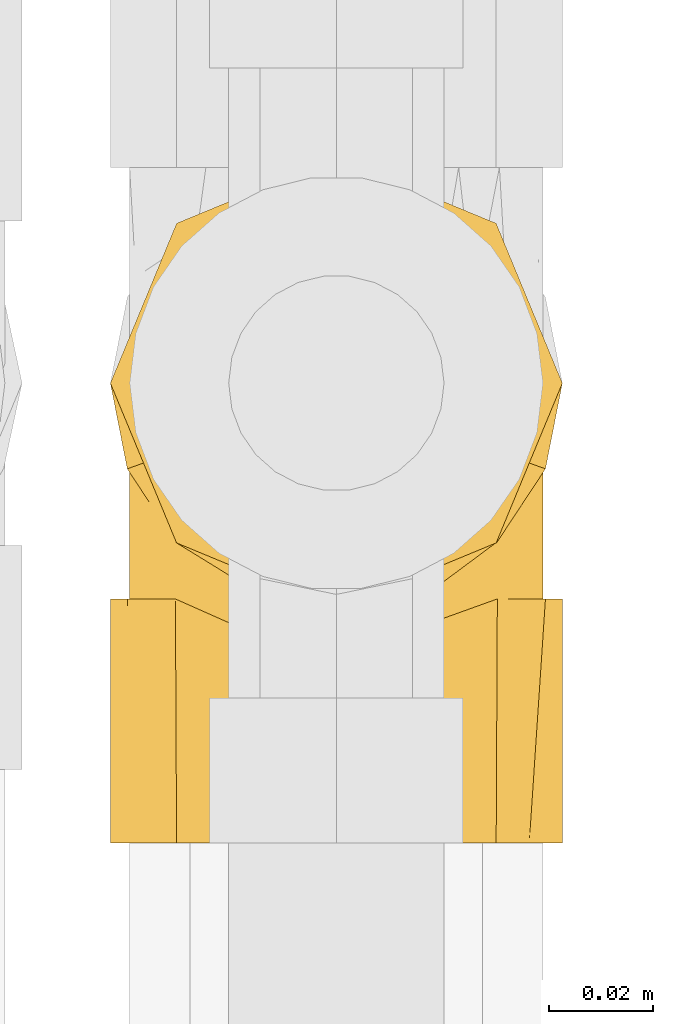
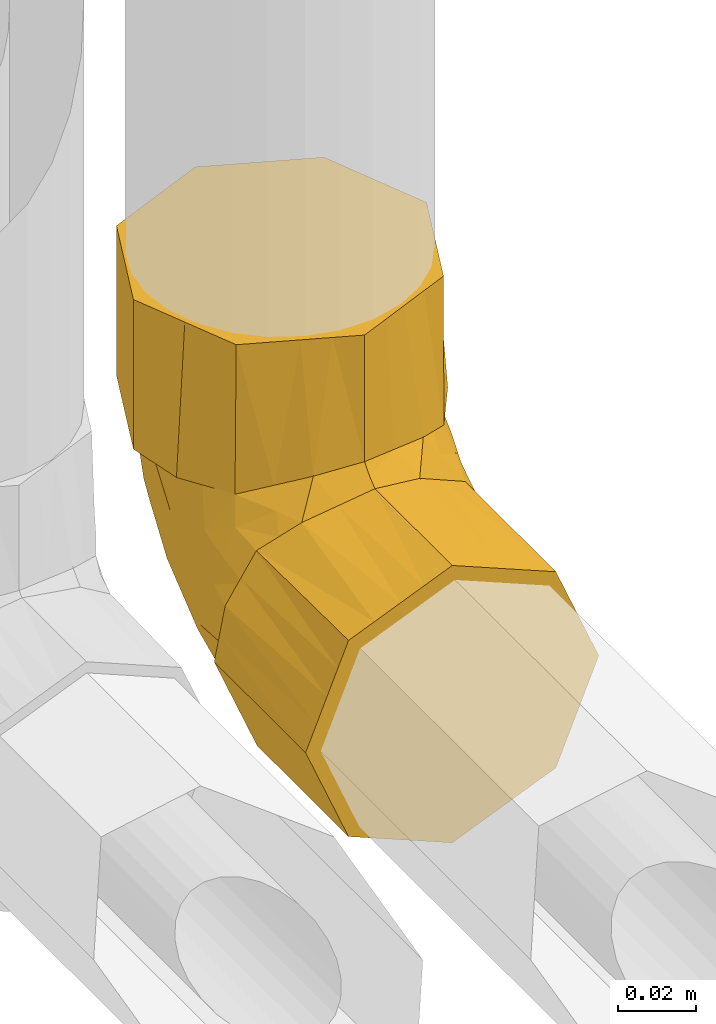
# One storey, part 239 of 652: 1 covering.
"""IFC2X3 building model written with IfcOpenShell, lengths in millimetres."""

from ifc_helpers import new_model, entity, si_unit, converted_unit, direction, frame, origin, place, context, subcontext, project, spatial, faceted_brep, material, type_object, element, save


model = new_model("IFC2X3")

# Units and contexts
model_context = context("Model", 3, precision=0.01, world=frame((0.0, 0.0, 308426.39999999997)), true_north=direction((6.123233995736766e-17, 1.0)))
plan_context = context("Plan", 3, precision=0.01, world=frame((0.0, 0.0, 308426.39999999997)), true_north=direction((6.123233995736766e-17, 1.0)))
body_context = subcontext(model_context, "Body", "Model", "MODEL_VIEW")
ifc_project = project(units=[si_unit("LENGTHUNIT", "METRE", prefix="MILLI"), si_unit("AREAUNIT", "SQUARE_METRE"), si_unit("VOLUMEUNIT", "CUBIC_METRE"), converted_unit("PLANEANGLEUNIT", "DEGREE", entity("IfcPlaneAngleMeasure", 0.017453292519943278), si_unit("PLANEANGLEUNIT", "RADIAN"), dimensions=[0, 0, 0, 0, 0, 0, 0])], contexts=[model_context, plan_context])

# Site, building, storey
site_placement = place(None, origin())
site = spatial("IfcSite", under=ifc_project, at=site_placement, Name="Default", CompositionType="ELEMENT")
building_placement = place(site_placement, origin())
building = spatial("IfcBuilding", under=site, at=building_placement, CompositionType="ELEMENT")
storey_placement = place(building_placement, frame((0.0, 0.0, 1730.6999999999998)))
storey = spatial("IfcBuildingStorey", under=building, at=storey_placement, Name="EG_Produktion_FFB", CompositionType="ELEMENT", Elevation=1730.6999999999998)

# Covering
ifc_material = material(Name="Dämmung - Armaflex-Schlauch")
covering_type = type_object("IfcCoveringType", Name="Rohrdämmung außen:Armaflex-Schlauch", PredefinedType="INSULATION")
covering_placement = place(storey_placement, frame((76935.09072776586, 51549.91060396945, 2355.090727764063)))
element("IfcCovering", 1, at=covering_placement, inside=storey, type_object=covering_type, material=ifc_material, Name="Rohrdämmung außen:Armaflex-Schlauch", ObjectType="Rohrdämmung außen:Armaflex-Schlauch", PredefinedType="INSULATION", context=body_context, shape_type="Brep", body=[
    faceted_brep([(1.5952722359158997, 46.75225000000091, 44.909272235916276), (3.21402764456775, 46.75225000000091, 53.12476995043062), (4.832783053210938, 46.75225000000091, 61.34026766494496), (9.44499511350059, 46.75225000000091, 68.32553208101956), (14.057207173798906, 46.75225000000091, 75.3107964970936), (10.189917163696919, 46.75225000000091, 66.46746776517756), (6.322627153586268, 46.75225000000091, 57.62413903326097), (5.271772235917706, 46.75225000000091, 47.97735876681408), (8.801210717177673, 46.75225000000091, 40.30004078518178), (12.330649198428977, 46.75225000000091, 32.62272280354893), (16.11426416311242, 46.75225000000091, 24.39251412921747), (19.897879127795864, 46.75225000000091, 16.162305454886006), (28.598847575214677, 46.75225000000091, 13.007380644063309), (36.75405990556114, 46.75225000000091, 10.050344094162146), (44.909272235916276, 46.75225000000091, 7.0933075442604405), (52.71980785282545, 46.75225000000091, 10.988087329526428), (60.53034346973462, 46.75225000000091, 14.882867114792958), (68.34087908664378, 46.75225000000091, 18.777646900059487), (76.15141470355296, 46.75225000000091, 22.672426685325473), (79.15888739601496, 46.75225000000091, 31.737423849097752), (81.85282981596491, 46.75225000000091, 39.857391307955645), (84.54677223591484, 46.75225000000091, 47.97735876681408), (83.74827741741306, 46.75225000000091, 51.67763962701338), (82.94978259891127, 46.75225000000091, 55.37792048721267), (81.71182968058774, 46.75225000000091, 61.11468093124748), (80.47387676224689, 46.75225000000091, 66.85144137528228), (75.76133729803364, 46.75225000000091, 75.3107964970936), (80.37354935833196, 46.75225000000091, 68.32553208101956), (84.9857614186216, 46.75225000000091, 61.34026766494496), (86.43872402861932, 46.75225000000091, 53.96620056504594), (88.22327223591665, 46.75225000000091, 44.909272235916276), (84.75898186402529, 46.75225000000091, 36.54573543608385), (81.88008379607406, 46.75225000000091, 29.595460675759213), (78.70848957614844, 46.75225000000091, 21.93855489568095), (75.53689535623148, 46.75225000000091, 14.28164911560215), (67.87998957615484, 46.75225000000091, 11.11005489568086), (60.223083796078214, 46.75225000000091, 7.938460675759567), (53.272807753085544, 46.75225000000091, 5.059562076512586), (44.909272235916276, 46.75225000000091, 1.5952722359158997), (36.54573552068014, 46.75225000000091, 5.0595625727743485), (29.59546067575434, 46.75225000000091, 7.938460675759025), (21.938554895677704, 46.75225000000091, 11.110054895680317), (14.281649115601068, 46.75225000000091, 14.281649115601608), (11.110054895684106, 46.75225000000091, 21.93855489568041), (7.938460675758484, 46.75225000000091, 29.595460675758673), (5.059562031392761, 46.75225000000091, 36.545736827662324), (44.909272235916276, 0.0, 1.5952722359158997), (52.56617801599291, 0.0, 4.766866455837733), (60.223083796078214, 0.0, 7.938460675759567), (67.87998957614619, 0.0, 11.110054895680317), (75.53689535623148, 0.0, 14.28164911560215), (78.4157932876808, 0.0, 21.231923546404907), (81.29469121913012, 0.0, 28.18219797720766), (84.75898172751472, 0.0, 36.54573510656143), (88.22327223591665, 0.0, 44.909272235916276), (85.05167801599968, 0.0, 52.56617801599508), (81.88008379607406, 0.0, 60.22308379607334), (78.70848957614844, 0.0, 67.8799895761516), (75.53689535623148, 0.0, 75.5368953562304), (67.87998957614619, 0.0, 78.70848957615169), (60.223083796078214, 0.0, 81.88008379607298), (52.56617801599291, 0.0, 85.05167801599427), (44.909272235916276, 0.0, 88.22327223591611), (36.54573690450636, 0.0, 84.75898247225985), (29.59546067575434, 0.0, 81.88008379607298), (21.938554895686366, 0.0, 78.70848957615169), (14.281649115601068, 0.0, 75.5368953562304), (11.110054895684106, 0.0, 67.8799895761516), (7.938460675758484, 0.0, 60.22308379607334), (4.766866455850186, 0.0, 52.56617801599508), (1.5952722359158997, 0.0, 44.909272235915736), (4.766866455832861, 0.0, 37.252366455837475), (7.938460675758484, 0.0, 29.595460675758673), (11.110054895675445, 0.0, 21.938554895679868), (14.281649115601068, 0.0, 14.281649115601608), (21.938554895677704, 0.0, 11.110054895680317), (29.59546067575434, 0.0, 7.938460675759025), (37.25236645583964, 0.0, 4.766866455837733), (58.75537900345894, 40.63540735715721, 85.9505675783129), (54.574402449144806, 40.303936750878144, 86.63683448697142), (44.909272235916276, 39.53767878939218, 88.22327223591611), (67.25835815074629, 43.693828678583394, 80.63068203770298), (34.80170281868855, 40.77882270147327, 85.7199321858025), (24.694133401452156, 42.01996661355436, 83.21659213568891), (19.375670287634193, 44.3861083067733, 79.26369431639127), (1.5952722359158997, 88.1177500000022, 86.27477223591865), (5.059562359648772, 96.48128620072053, 86.27477223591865), (8.523852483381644, 104.84482240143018, 86.27477223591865), (11.402750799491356, 111.7950977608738, 86.27477223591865), (14.281649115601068, 118.74537312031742, 86.27477223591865), (21.938554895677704, 121.91696734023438, 86.27477223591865), (29.59546067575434, 125.08856156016, 86.27477223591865), (36.545736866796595, 127.96746022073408, 86.27477223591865), (44.909272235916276, 131.43175000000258, 86.27477223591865), (53.27280874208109, 127.96745974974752, 86.27477223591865), (60.223083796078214, 125.08856156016, 86.27477223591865), (67.87998957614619, 121.91696734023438, 86.27477223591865), (75.53689535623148, 118.74537312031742, 86.27477223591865), (78.7084895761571, 111.08846734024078, 86.27477223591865), (81.88008379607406, 103.43156156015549, 86.27477223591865), (84.75898225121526, 96.48128586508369, 86.27477223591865), (88.22327223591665, 88.1177500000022, 86.27477223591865), (86.43872569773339, 79.06082006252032, 86.27477223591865), (84.98576835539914, 71.68677149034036, 86.27477223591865), (80.37355282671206, 64.70149861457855, 86.27477223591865), (75.76133729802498, 57.71622573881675, 86.27477223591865), (79.62862730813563, 66.55955447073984, 86.27477223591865), (83.49591731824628, 75.40288320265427, 86.27477223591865), (84.54677223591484, 85.04966346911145, 86.27477223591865), (80.88741617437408, 93.00577895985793, 86.27477223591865), (77.22806011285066, 100.96189445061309, 86.27477223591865), (73.56870405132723, 108.91800994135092, 86.27477223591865), (69.90934798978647, 116.87412543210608, 86.27477223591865), (57.40931011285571, 121.40392006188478, 86.27477223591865), (53.06523540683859, 122.97813659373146, 86.27477223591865), (44.909272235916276, 125.93371469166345, 86.27477223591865), (37.09633037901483, 122.035771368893, 86.27477223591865), (29.283388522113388, 118.13782804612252, 86.27477223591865), (21.470446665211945, 114.23988472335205, 86.27477223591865), (13.6575048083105, 110.34194140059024, 86.27477223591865), (9.464638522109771, 97.69580243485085, 86.27477223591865), (5.271772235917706, 85.04966346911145, 86.27477223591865), (6.070267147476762, 81.34938217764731, 86.27477223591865), (6.868762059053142, 77.64910088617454, 86.27477223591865), (8.1067148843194, 71.91234087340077, 86.27477223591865), (9.344667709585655, 66.175580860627, 86.27477223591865), (14.05720717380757, 57.71622573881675, 86.27477223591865), (9.44499164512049, 64.70149861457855, 86.27477223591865), (4.83277611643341, 71.68677149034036, 86.27477223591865), (3.379818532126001, 79.06082129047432, 86.27477223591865), (44.909272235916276, 44.803750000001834, 133.02702223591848), (53.27280758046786, 48.26803976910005, 133.02702223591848), (60.223083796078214, 51.14693843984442, 133.02702223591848), (67.87998957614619, 54.31853265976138, 133.02702223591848), (75.53689535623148, 57.490126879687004, 133.02702223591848), (78.70848957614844, 65.14703265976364, 133.02702223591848), (81.88008379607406, 72.80393843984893, 133.02702223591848), (85.05167801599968, 80.46084421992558, 133.02702223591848), (88.22327223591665, 88.1177500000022, 133.02702223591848), (85.05167801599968, 95.77465578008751, 133.02702223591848), (81.8800837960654, 103.43156156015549, 133.02702223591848), (78.70848957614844, 111.08846734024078, 133.02702223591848), (75.53689535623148, 118.74537312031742, 133.02702223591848), (68.58662082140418, 121.62427109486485, 133.02702223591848), (61.636346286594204, 124.50316906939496, 133.02702223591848), (53.272809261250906, 127.96745953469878, 133.02702223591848), (44.909272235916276, 131.43175000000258, 133.02702223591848), (37.25236645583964, 128.26015578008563, 133.02702223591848), (29.59546067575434, 125.08856156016, 133.02702223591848), (21.938554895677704, 121.91696734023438, 133.02702223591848), (14.281649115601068, 118.74537312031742, 133.02702223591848), (11.110054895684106, 111.08846734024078, 133.02702223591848), (7.938460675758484, 103.43156156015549, 133.02702223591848), (4.766866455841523, 95.77465578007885, 133.02702223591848), (1.5952722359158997, 88.1177500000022, 133.02702223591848), (4.766866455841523, 80.46084421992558, 133.02702223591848), (7.938460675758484, 72.80393843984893, 133.02702223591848), (11.110054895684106, 65.14703265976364, 133.02702223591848), (14.281649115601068, 57.490126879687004, 133.02702223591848), (21.938554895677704, 54.31853265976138, 133.02702223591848), (29.59546067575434, 51.14693843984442, 133.02702223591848), (37.25236645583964, 47.975344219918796, 133.02702223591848), (44.909272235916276, 44.803750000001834, 93.48934344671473), (55.016841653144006, 47.30709005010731, 92.24819953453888), (65.12441107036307, 49.810430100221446, 91.00705562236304), (70.44287418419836, 53.76332791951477, 88.64091392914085), (31.063165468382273, 47.076454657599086, 92.39161487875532), (35.24414219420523, 46.39018772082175, 92.72308549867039), (22.56018632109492, 52.396340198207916, 89.33319355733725), (81.09273684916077, 74.02916918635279, 44.298432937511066), (80.35025052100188, 92.26206699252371, 61.22319904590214), (83.6280712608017, 79.8964130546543, 60.315870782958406), (77.28613488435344, 66.39022694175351, 31.554704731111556), (64.25173145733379, 81.39695765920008, 26.91499790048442), (54.27933255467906, 89.9154066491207, 28.37931870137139), (63.71739303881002, 96.00774400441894, 38.82930910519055), (74.63873839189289, 91.23761697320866, 46.402005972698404), (65.32319999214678, 64.42981634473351, 18.35429005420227), (83.68880824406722, 64.66007922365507, 47.487525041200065), (53.24981008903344, 113.5698990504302, 55.684203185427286), (53.20563620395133, 120.35718390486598, 69.91802908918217), (59.6843396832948, 117.27221508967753, 67.54436645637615), (54.901138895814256, 68.46955995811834, 15.33967552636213), (71.23794594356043, 72.14668964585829, 26.991249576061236), (84.54677223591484, 63.332343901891, 56.50951300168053), (71.08035146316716, 108.16446105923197, 64.55447353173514), (77.46966646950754, 102.62911492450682, 69.5335555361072), (44.909272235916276, 61.65182754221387, 16.181261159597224), (56.48927824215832, 102.76642967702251, 41.78775499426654), (44.909272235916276, 106.35056016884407, 43.44512200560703), (44.909272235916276, 116.14213743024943, 64.85994712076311), (44.909272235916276, 117.76990778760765, 68.41998822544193), (44.909272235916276, 76.55140508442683, 25.269214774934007), (69.81773948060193, 87.28327528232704, 36.18570165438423), (44.909272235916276, 91.45098262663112, 34.357168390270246), (62.763931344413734, 108.0507101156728, 53.11179035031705), (69.36255699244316, 99.91394087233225, 48.91757521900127), (84.54677223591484, 80.36065574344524, 79.8481259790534), (84.54677223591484, 75.67164801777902, 73.42147972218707), (84.54677223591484, 74.1910036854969, 71.3921426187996), (84.54677223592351, 69.50199595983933, 64.9654963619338), (84.54677223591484, 55.04229695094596, 52.243435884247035), (84.54677223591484, 50.332074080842, 49.819544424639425), (83.21561390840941, 56.26094341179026, 63.98032098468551), (77.57009588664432, 54.556266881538, 78.47075548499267), (80.01647633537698, 53.210297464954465, 71.91515371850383), (82.50076779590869, 60.665580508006, 70.61788542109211), (44.909272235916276, 42.40915936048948, 90.61786287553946), (69.11943588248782, 48.46855326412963, 85.0085057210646), (83.42582518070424, 70.60278023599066, 77.60873386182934), (80.87166183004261, 62.687122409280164, 79.02624860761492), (83.31704110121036, 66.58610433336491, 72.88436373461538), (6.36983714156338, 55.273856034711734, 62.21893555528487), (5.271772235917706, 53.91189816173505, 51.6617300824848), (20.699109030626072, 48.01851602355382, 84.55846896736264), (12.277698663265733, 54.52623062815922, 78.50079173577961), (7.774699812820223, 62.42306103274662, 74.28266464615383), (8.780218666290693, 54.56229555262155, 70.30863802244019), (6.031535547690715, 62.60173052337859, 65.81985919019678), (5.8858975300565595, 67.3478940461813, 69.42283832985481), (5.271772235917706, 82.70515960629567, 83.06144910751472), (5.271772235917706, 80.36065574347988, 79.84812597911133), (5.271772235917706, 75.67164801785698, 73.42147972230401), (5.271772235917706, 69.50199595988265, 64.96549636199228), (6.411600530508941, 70.02439853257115, 76.87129451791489), (5.271772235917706, 63.332343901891, 56.50951300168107), (5.271772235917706, 74.1910036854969, 71.3921426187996), (17.88358938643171, 61.51531506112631, 22.537484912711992), (12.125086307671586, 64.01585241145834, 31.011923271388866), (16.90165112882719, 76.32579608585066, 31.39918384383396), (6.9647082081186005, 89.04415059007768, 67.82791372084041), (37.456410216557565, 86.64351262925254, 25.3277836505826), (21.961010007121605, 91.47388821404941, 37.969918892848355), (24.76338004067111, 69.77767080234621, 20.63187835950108), (8.181328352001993, 66.67052170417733, 40.84519504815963), (6.1333731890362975, 61.929689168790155, 45.81207626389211), (15.727702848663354, 106.7224160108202, 68.31732060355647), (15.418239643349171, 93.33205701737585, 48.33488043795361), (10.995633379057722, 99.1733978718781, 67.31173150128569), (6.282339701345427, 74.7537902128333, 54.40590080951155), (9.351008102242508, 84.37906523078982, 51.80866110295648), (33.31902489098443, 113.46460816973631, 57.20705970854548), (37.185424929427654, 100.8009470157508, 38.09519508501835), (30.50188918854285, 103.97247135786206, 44.80832799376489), (35.010191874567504, 67.93556611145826, 15.07349009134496), (21.40322444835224, 106.99731105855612, 57.98843776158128), (30.26940447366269, 92.12128292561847, 32.44253809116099)], [[[0, 1, 2, 3, 4, 5, 6, 7, 8, 9, 10, 11, 12, 13, 14, 15, 16, 17, 18, 19, 20, 21, 22, 23, 24, 25, 26, 27, 28, 29, 30, 31, 32, 33, 34, 35, 36, 37, 38, 39, 40, 41, 42, 43, 44, 45]], [[46, 47, 48, 49, 50, 51, 52, 53, 54, 55, 56, 57, 58, 59, 60, 61, 62, 63, 64, 65, 66, 67, 68, 69, 70, 71, 72, 73, 74, 75, 76, 77]], [[26, 58, 57]], [[27, 26, 57]], [[61, 78, 79, 80]], [[30, 29, 55]], [[78, 60, 81]], [[29, 56, 55]], [[56, 28, 27]], [[30, 55, 54]], [[56, 27, 57]], [[56, 29, 28]], [[61, 80, 62]], [[58, 81, 60, 59]], [[61, 60, 78]], [[58, 26, 81]], [[31, 30, 54, 53, 52, 51, 50, 34, 33, 32]], [[34, 50, 49, 48, 47, 46, 38, 37, 36, 35]], [[0, 45, 44, 43, 42, 74, 73, 72, 71, 70]], [[76, 75, 74, 42, 41, 40, 39, 38, 46, 77]], [[70, 1, 0]], [[3, 2, 68]], [[82, 64, 63]], [[4, 67, 66]], [[3, 68, 67]], [[65, 83, 84, 4]], [[64, 82, 83]], [[68, 2, 69]], [[1, 70, 69]], [[63, 80, 82]], [[69, 2, 1]], [[67, 4, 3]], [[63, 62, 80]], [[65, 4, 66]], [[65, 64, 83]], [[85, 86, 87, 88, 89, 90, 91, 92, 93, 94, 95, 96, 97, 98, 99, 100, 101, 102, 103, 104, 105, 106, 107, 108, 109, 110, 111, 112, 113, 114, 115, 116, 117, 118, 119, 120, 121, 122, 123, 124, 125, 126, 127, 128, 129]], [[130, 131, 132, 133, 134, 135, 136, 137, 138, 139, 140, 141, 142, 143, 144, 145, 146, 147, 148, 149, 150, 151, 152, 153, 154, 155, 156, 157, 158, 159, 160, 161]], [[144, 143, 142, 97, 96, 95, 94, 93, 146, 145]], [[97, 142, 141, 140, 139, 138, 101, 100, 99, 98]], [[136, 102, 137]], [[105, 135, 134]], [[131, 130, 162]], [[101, 137, 102]], [[104, 136, 135]], [[104, 103, 136]], [[132, 163, 164]], [[163, 132, 131]], [[133, 164, 165, 105]], [[131, 162, 163]], [[101, 138, 137]], [[135, 105, 104]], [[102, 136, 103]], [[133, 105, 134]], [[133, 132, 164]], [[161, 162, 130]], [[85, 129, 155]], [[161, 166, 167, 162]], [[156, 128, 127]], [[166, 160, 168]], [[129, 156, 155]], [[157, 156, 127]], [[85, 155, 154]], [[158, 168, 160, 159]], [[156, 129, 128]], [[161, 160, 166]], [[158, 126, 168]], [[126, 157, 127]], [[126, 158, 157]], [[150, 89, 88, 87, 86, 85, 154, 153, 152, 151]], [[89, 150, 149, 148, 147, 146, 93, 92, 91, 90]], [[169, 170, 171]], [[19, 172, 169]], [[173, 174, 175]], [[176, 170, 169]], [[17, 16, 177]], [[21, 20, 178]], [[179, 180, 181]], [[182, 177, 16]], [[178, 20, 169]], [[19, 18, 172]], [[18, 17, 183]], [[20, 19, 169]], [[184, 178, 171]], [[185, 186, 176]], [[176, 169, 172]], [[176, 172, 183]], [[15, 187, 182]], [[183, 17, 177]], [[186, 111, 110]], [[175, 174, 188]], [[179, 189, 190, 191]], [[182, 173, 177]], [[183, 177, 173]], [[182, 16, 15]], [[173, 182, 174]], [[182, 192, 174]], [[173, 175, 193]], [[183, 172, 18]], [[188, 194, 189]], [[189, 179, 188]], [[185, 195, 181]], [[109, 170, 110]], [[185, 112, 111]], [[170, 186, 110]], [[196, 185, 176]], [[170, 109, 171]], [[171, 108, 197, 198, 199, 200, 184]], [[176, 186, 170]], [[185, 111, 186]], [[179, 181, 195]], [[108, 171, 109]], [[185, 181, 112]], [[181, 180, 113]], [[188, 179, 195]], [[188, 195, 175]], [[174, 194, 188]], [[196, 195, 185]], [[196, 176, 193]], [[115, 114, 113, 180]], [[112, 181, 113]], [[179, 191, 180]], [[115, 180, 191]], [[171, 178, 169]], [[174, 192, 194]], [[178, 184, 201, 202, 21]], [[187, 15, 14]], [[187, 192, 182]], [[193, 176, 183]], [[195, 196, 175]], [[173, 193, 183]], [[175, 196, 193]], [[203, 25, 24]], [[204, 26, 205]], [[206, 205, 203]], [[207, 80, 79]], [[203, 200, 206]], [[208, 165, 164]], [[78, 164, 163]], [[209, 107, 106]], [[204, 205, 206]], [[204, 210, 105]], [[107, 198, 197, 108]], [[210, 204, 206]], [[210, 209, 106]], [[79, 163, 207]], [[163, 79, 78]], [[207, 163, 162]], [[209, 210, 211]], [[198, 209, 211]], [[204, 165, 208]], [[78, 81, 26, 208]], [[105, 210, 106]], [[210, 206, 211]], [[208, 26, 204]], [[107, 209, 198]], [[204, 105, 165]], [[78, 208, 164]], [[26, 25, 205]], [[203, 205, 25]], [[202, 201, 24, 23, 22, 21]], [[200, 203, 184]], [[201, 203, 24]], [[203, 201, 184]], [[206, 200, 211]], [[211, 200, 199, 198]], [[207, 82, 80]], [[212, 213, 6]], [[84, 214, 215]], [[125, 216, 126]], [[7, 6, 213]], [[4, 217, 5]], [[218, 217, 216]], [[216, 217, 215]], [[167, 166, 82]], [[216, 215, 126]], [[166, 83, 82]], [[219, 218, 216]], [[215, 217, 4]], [[84, 83, 214]], [[122, 121, 220, 221, 222, 124, 123]], [[207, 162, 167]], [[218, 219, 223]], [[125, 224, 216]], [[6, 5, 212]], [[167, 82, 207]], [[166, 168, 126, 214]], [[218, 212, 217]], [[215, 4, 84]], [[214, 126, 215]], [[166, 214, 83]], [[223, 225, 218]], [[212, 218, 225]], [[212, 225, 213]], [[217, 212, 5]], [[216, 224, 219]], [[222, 224, 124]], [[219, 222, 226, 223]], [[224, 125, 124]], [[222, 219, 224]], [[227, 228, 229]], [[230, 121, 120]], [[194, 192, 231]], [[232, 233, 229]], [[234, 8, 235]], [[236, 237, 238]], [[9, 228, 10]], [[234, 235, 239]], [[240, 234, 239]], [[119, 236, 238]], [[241, 242, 243]], [[235, 7, 213, 225]], [[227, 11, 10]], [[9, 8, 234]], [[12, 233, 244]], [[227, 233, 11]], [[230, 226, 222, 221, 220, 121]], [[238, 237, 240]], [[241, 117, 116]], [[239, 230, 240]], [[239, 226, 230]], [[240, 230, 238]], [[238, 230, 120]], [[120, 119, 238]], [[118, 245, 236]], [[241, 245, 117]], [[237, 232, 229]], [[245, 243, 232]], [[229, 240, 237]], [[187, 13, 244]], [[233, 12, 11]], [[194, 231, 242]], [[246, 244, 233]], [[244, 192, 187]], [[239, 225, 223, 226]], [[228, 240, 229]], [[9, 234, 228]], [[240, 228, 234]], [[231, 244, 246]], [[194, 242, 189]], [[245, 232, 237]], [[233, 232, 246]], [[228, 227, 10]], [[233, 227, 229]], [[116, 190, 241]], [[190, 189, 241]], [[116, 115, 191, 190]], [[244, 231, 192]], [[231, 246, 242]], [[243, 242, 246]], [[241, 189, 242]], [[232, 243, 246]], [[245, 241, 243]], [[7, 235, 8]], [[225, 239, 235]], [[118, 117, 245]], [[237, 236, 245]], [[236, 119, 118]], [[13, 187, 14]], [[13, 12, 244]]]),
])

save(model, "model.ifc")
